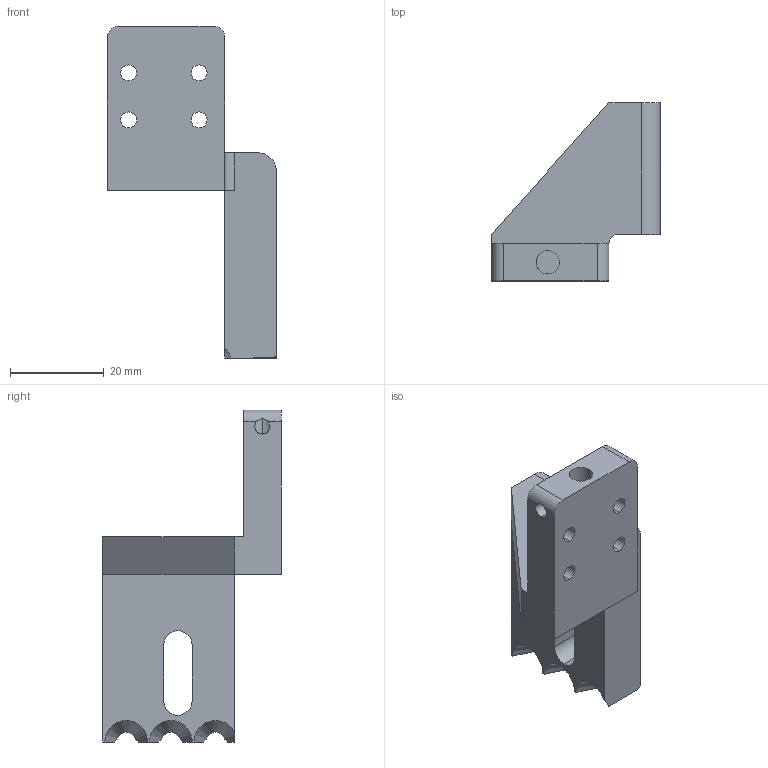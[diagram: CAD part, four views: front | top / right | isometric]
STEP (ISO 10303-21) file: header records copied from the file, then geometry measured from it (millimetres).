
FILE_DESCRIPTION (( 'STEP AP214' ), '1' );
FILE_NAME ('GZ21.14_V1镜向对心调节块x.STEP', '2021-02-26T09:05:43', ( '微软中国' ), ( 'Microsoft' ), 'SwSTEP 2.0', 'SolidWorks 2017', '' );
FILE_SCHEMA (( 'AUTOMOTIVE_DESIGN' ));
Length unit declared in the file: millimetre
Products named in the file (1): GZ21.14_V1噩砃勤陑覃誹輸x
Bounding box: 36 x 38 x 70.7 mm (x, y, z)
Volume: 21205.3 mm3; surface area: 8188.7 mm2
Topology: 1 solids, 1 shells, 86 faces, 230 edges, 149 vertices
Faces by surface type: plane 50, cylinder 33, cone 3
Entity records: 2840 total; most frequent: CARTESIAN_POINT 565, DIRECTION 466, ORIENTED_EDGE 460, EDGE_CURVE 230, AXIS2_PLACEMENT_3D 160, VERTEX_POINT 149, LINE 146, VECTOR 146
